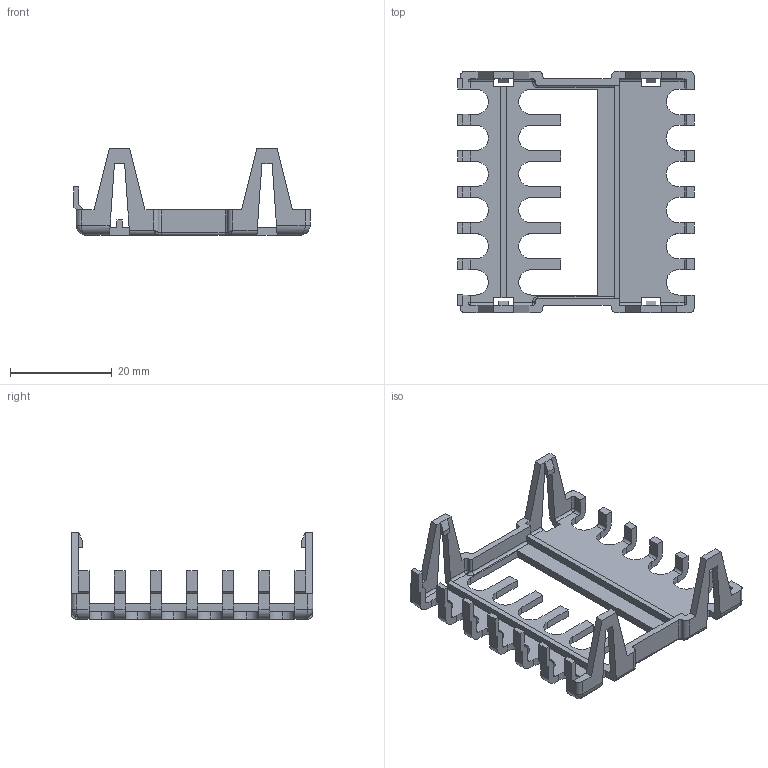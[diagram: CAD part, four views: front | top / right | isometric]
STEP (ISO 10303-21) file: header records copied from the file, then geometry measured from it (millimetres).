
FILE_DESCRIPTION (( 'STEP AP203' ), '1' );
FILE_NAME ('端子カバー.STEP', '2016-04-18T10:32:36', ( '' ), ( '' ), 'SwSTEP 2.0', 'SolidWorks 2013', '' );
FILE_SCHEMA (( 'CONFIG_CONTROL_DESIGN' ));
Length unit declared in the file: millimetre
Products named in the file (1): 端子カバー
Bounding box: 46.5 x 47.5 x 17 mm (x, y, z)
Volume: 2987.9 mm3; surface area: 5327.5 mm2
Topology: 1 solids, 1 shells, 304 faces, 882 edges, 558 vertices
Faces by surface type: plane 190, cylinder 94, bspline 8, sphere 6, torus 6
Entity records: 10127 total; most frequent: CARTESIAN_POINT 2107, ORIENTED_EDGE 1736, DIRECTION 1596, EDGE_CURVE 868, VECTOR 670, LINE 670, VERTEX_POINT 558, AXIS2_PLACEMENT_3D 463
